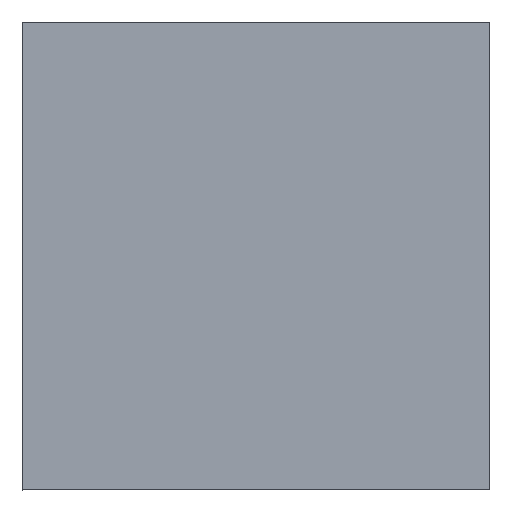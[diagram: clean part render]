
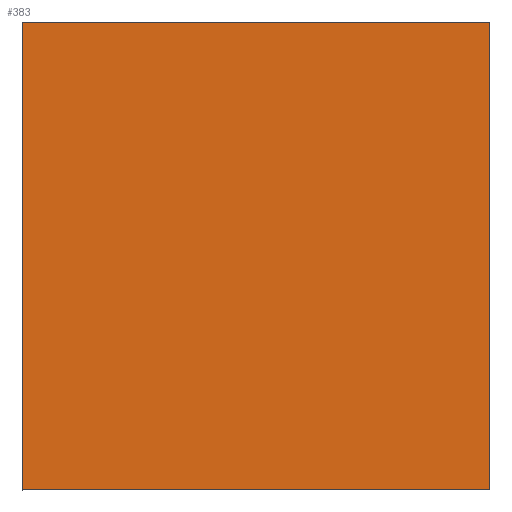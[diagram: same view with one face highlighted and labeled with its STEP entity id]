
A CAD part, top view. The second image highlights one B-rep face of the part: STEP entity #383.
In plain terms, the highlighted planar face has unit normal (0, 0, 1).
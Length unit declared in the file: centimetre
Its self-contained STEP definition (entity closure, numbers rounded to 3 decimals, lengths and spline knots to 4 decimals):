
#8 = CARTESIAN_POINT ( 'NONE',  ( 0., 1000., 1000. ) ) ;
#19 = DIRECTION ( 'NONE',  ( 1., 0., 0. ) ) ;
#39 = LINE ( 'NONE', #506, #375 ) ;
#60 = DIRECTION ( 'NONE',  ( 0., -1., 0. ) ) ;
#77 = VERTEX_POINT ( 'NONE', #571 ) ;
#119 = ORIENTED_EDGE ( 'NONE', *, *, #406, .T. ) ;
#132 = ORIENTED_EDGE ( 'NONE', *, *, #178, .T. ) ;
#135 = EDGE_LOOP ( 'NONE', ( #421, #119, #669, #132 ) ) ;
#148 = CARTESIAN_POINT ( 'NONE',  ( 0., 0., 1000. ) ) ;
#163 = AXIS2_PLACEMENT_3D ( 'NONE', #148, #501, #19 ) ;
#175 = VERTEX_POINT ( 'NONE', #387 ) ;
#178 = EDGE_CURVE ( 'NONE', #77, #549, #446, .T. ) ;
#182 = FACE_OUTER_BOUND ( 'NONE', #135, .T. ) ;
#188 = EDGE_CURVE ( 'NONE', #549, #175, #292, .T. ) ;
#286 = PLANE ( 'NONE',  #163 ) ;
#292 = LINE ( 'NONE', #599, #672 ) ;
#368 = CARTESIAN_POINT ( 'NONE',  ( 0., 1000., 1000. ) ) ;
#375 = VECTOR ( 'NONE', #576, 100. ) ;
#383 = ADVANCED_FACE ( 'NONE', ( #182 ), #286, .T. ) ;
#386 = EDGE_CURVE ( 'NONE', #656, #77, #39, .T. ) ;
#387 = CARTESIAN_POINT ( 'NONE',  ( 0., 0., 1000. ) ) ;
#406 = EDGE_CURVE ( 'NONE', #175, #656, #524, .T. ) ;
#421 = ORIENTED_EDGE ( 'NONE', *, *, #188, .T. ) ;
#446 = LINE ( 'NONE', #8, #587 ) ;
#468 = DIRECTION ( 'NONE',  ( 1., 0., 0. ) ) ;
#501 = DIRECTION ( 'NONE',  ( 0., 0., 1. ) ) ;
#506 = CARTESIAN_POINT ( 'NONE',  ( 1000., 1000., 1000. ) ) ;
#524 = LINE ( 'NONE', #671, #547 ) ;
#547 = VECTOR ( 'NONE', #468, 100. ) ;
#549 = VERTEX_POINT ( 'NONE', #368 ) ;
#571 = CARTESIAN_POINT ( 'NONE',  ( 1000., 1000., 1000. ) ) ;
#576 = DIRECTION ( 'NONE',  ( 0., 1., 0. ) ) ;
#587 = VECTOR ( 'NONE', #602, 100. ) ;
#599 = CARTESIAN_POINT ( 'NONE',  ( 0., 1000., 1000. ) ) ;
#602 = DIRECTION ( 'NONE',  ( -1., 0., 0. ) ) ;
#651 = CARTESIAN_POINT ( 'NONE',  ( 1000., 0., 1000. ) ) ;
#656 = VERTEX_POINT ( 'NONE', #651 ) ;
#669 = ORIENTED_EDGE ( 'NONE', *, *, #386, .T. ) ;
#671 = CARTESIAN_POINT ( 'NONE',  ( 0., 0., 1000. ) ) ;
#672 = VECTOR ( 'NONE', #60, 100. ) ;
